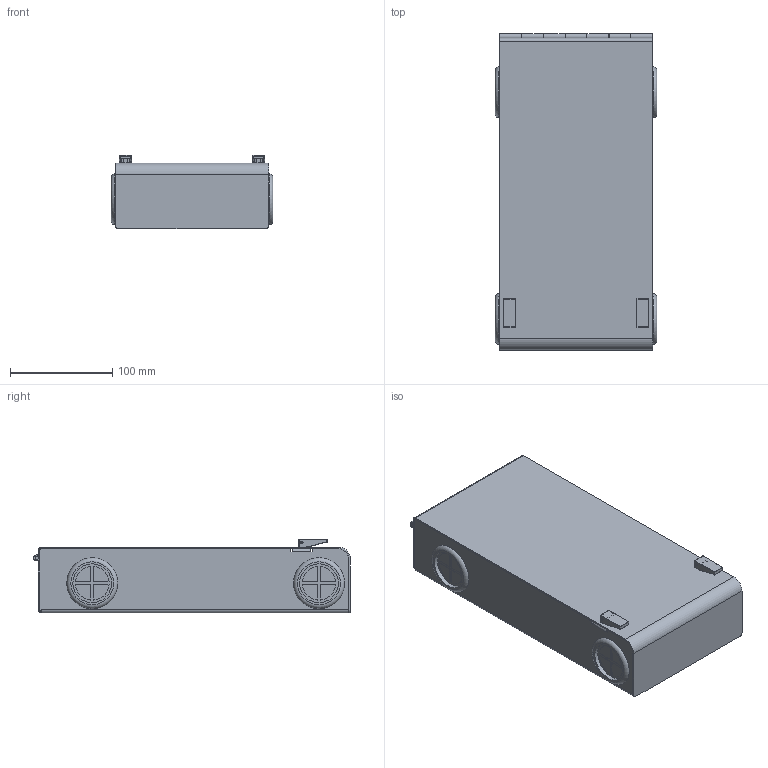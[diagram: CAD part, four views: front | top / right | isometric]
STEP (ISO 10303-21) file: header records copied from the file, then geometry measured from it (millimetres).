
FILE_DESCRIPTION(/* description */ ('STEP AP242','CAx-IF Rec.Pracs.---Representation and Presentation of Product Manufacturing Information (PMI)---4.0---2014-10-13','CAx-IF Rec.Pracs.---3D Tessellated Geometry---0.4---2014-09-14','2;1'),/* implementation_level */ '2;1');
FILE_NAME(/* name */ '632e0dad25b5ed0ce18ea7f2',/* time_stamp */ '2022-09-23T19:49:02+00:00',/* author */ (''),/* organization */ (''),/* preprocessor_version */ 'ST-DEVELOPER v18.102',/* originating_system */ ' ',/* authorisation */ ' ');
FILE_SCHEMA (('AP242_MANAGED_MODEL_BASED_3D_ENGINEERING_MIM_LF { 1 0 10303 442 1 1 4 }'));
Length unit declared in the file: metre
Products named in the file (16): PEW2-A-1 - 2 Plate Fiber Patch Panel; Top Housing; LGX-BLANK-000-G; 50mm OD Cable Grommet; PH Pan head screw M4x0.70 x 6; Plunger - Mini Snap Latch; Hinge Pin; Bottom Housing; SoCo 19-81-10 <1>; Shaft - 19-81-10; Small Nut - 19-81-10; Bushing - 19-81-10; Handle - 19-81-10; Pin - 19-81-10; SoCo 19-81-10 <2>
Assembly tree (26 placements, depth 3):
  PEW2-A-1 - 2 Plate Fiber Patch Panel
    Top Housing
    LGX-BLANK-000-G  x2
    50mm OD Cable Grommet  x4
    PH Pan head screw M4x0.70 x 6
    Plunger - Mini Snap Latch  x2
    Plunger - Mini Snap Latch  x2
    Hinge Pin
    Bottom Housing
    SoCo 19-81-10 <1>
      Shaft - 19-81-10
      Small Nut - 19-81-10
      Bushing - 19-81-10
      Handle - 19-81-10
      Pin - 19-81-10
    SoCo 19-81-10 <2>
      Shaft - 19-81-10
      Handle - 19-81-10
      Small Nut - 19-81-10
      Bushing - 19-81-10
      Pin - 19-81-10
Bounding box: 158.5 x 310.1 x 72.2 mm (x, y, z)
Volume: 273516.9 mm3; surface area: 349885.6 mm2
Topology: 24 solids, 24 shells, 1221 faces, 2991 edges, 1801 vertices
Faces by surface type: plane 667, cylinder 395, cone 73, bspline 48, torus 21, sphere 17
Full cylindrical faces by diameter (mm): 1.956 x4, 1.981 x2, 2.037 x4, 2.108 x2, 2.184 x8, 2.2 x2, 2.9 x1, 3.454 x2, 3.81 x8, 3.937 x4, 4 x1, 4.3 x2, 4.5 x1, 5.588 x4, 6 x4, 6.35 x4, 8 x2, 8.382 x8, 8.6 x2, 8.712 x2, 9.35 x2, 38 x8, 41.6 x4, 42.5 x4
Entity records: 25899 total; most frequent: CARTESIAN_POINT 5802, DIRECTION 3888, ORIENTED_EDGE 3706, EDGE_CURVE 1853, AXIS2_PLACEMENT_3D 1350, LINE 1188, VECTOR 1188, VERTEX_POINT 1155
